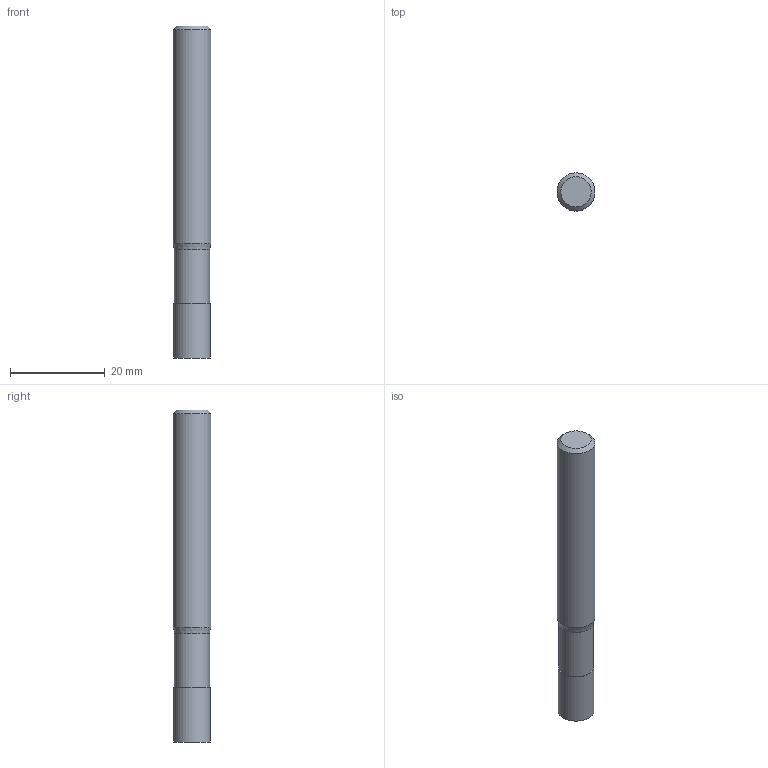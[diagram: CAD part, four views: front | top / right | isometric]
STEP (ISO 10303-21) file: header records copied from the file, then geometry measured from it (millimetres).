
FILE_DESCRIPTION((''),'2;1');
FILE_NAME('C:\Users\nsx150\AppData\Local\Temp\Mastercam 2021\EUJSUNXURU\TEMP.step','2021-04-22T10:29:15',(''),(''),'STEP Write','Mastercam 2021 ... CNC Software, Inc.','');
FILE_SCHEMA(('AUTOMOTIVE_DESIGN'));
Length unit declared in the file: millimetre
Products named in the file (1): None
Bounding box: 8 x 8 x 70 mm (x, y, z)
Volume: 3367.3 mm3; surface area: 1894.3 mm2
Topology: 2 solids, 2 shells, 9 faces, 12 edges, 7 vertices
Faces by surface type: plane 4, cylinder 3, cone 2
Full cylindrical faces by diameter (mm): 7.4 x1, 7.6 x1, 8 x1
Entity records: 211 total; most frequent: DIRECTION 36, CARTESIAN_POINT 25, AXIS2_PLACEMENT_3D 18, ORIENTED_EDGE 14, EDGE_LOOP 14, STYLED_ITEM 12, ADVANCED_FACE 9, FACE_BOUND 8
